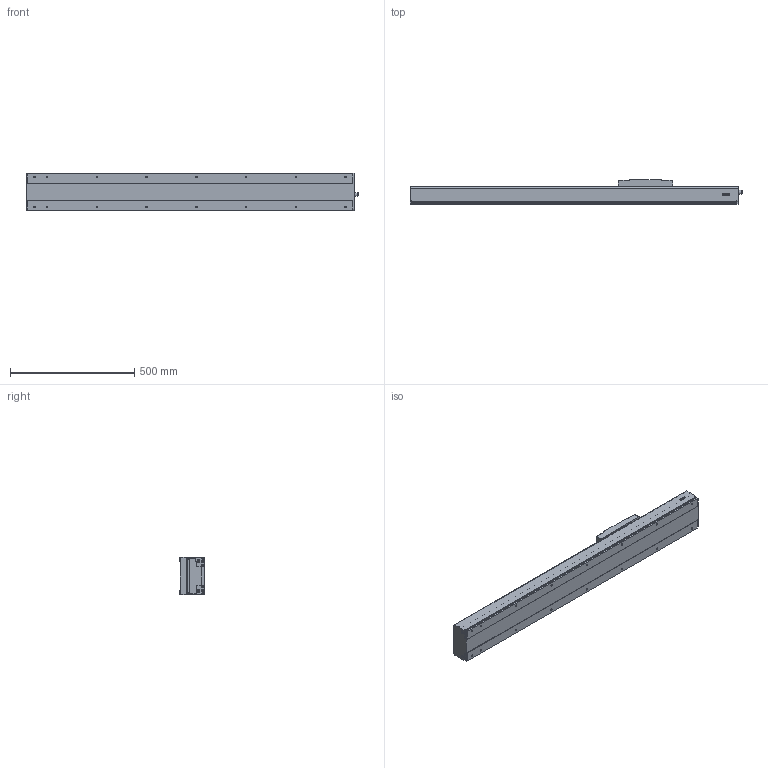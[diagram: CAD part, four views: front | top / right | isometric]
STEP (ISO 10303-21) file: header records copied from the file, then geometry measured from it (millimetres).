
FILE_DESCRIPTION(/* description */ (''),/* implementation_level */ '2;1');
FILE_NAME(/* name */ 'D:\混合母檔20191031\混和母檔\混和母檔\bin\Debug\Download\3D\KS150-20C-800AFI\KS150-20C-800AFI.stp',/* time_stamp */ '2019-11-04T16:02:55+08:00',/* author */ ('user'),/* organization */ (''),/* preprocessor_version */ 'ST-DEVELOPER v16.13',/* originating_system */ 'Autodesk Inventor 2018',/* authorisation */ '');
FILE_SCHEMA (('AUTOMOTIVE_DESIGN { 1 0 10303 214 3 1 1 }'));
Length unit declared in the file: millimetre
Products named in the file (3): KS150-20C-800AFI; KS150-FI; KS150-SL
Assembly tree (2 placements, depth 2):
  KS150-20C-800AFI
    KS150-FI
    KS150-SL
Bounding box: 1335.05 x 100 x 152.4 mm (x, y, z)
Volume: 5534347.8 mm3; surface area: 1321793.2 mm2
Topology: 4 solids, 8 shells, 1245 faces, 3285 edges, 2130 vertices
Faces by surface type: plane 615, cone 230, cylinder 192, bspline 136, torus 68, sphere 4
Full cylindrical faces by diameter (mm): 3.242 x12, 3.571 x8, 4.134 x4, 4.5 x8, 4.509 x6, 4.917 x4, 5 x18, 5.5 x12, 6 x2, 6.647 x20, 8 x4, 8.4 x8, 9.3 x12, 10.437 x1, 12 x1, 14 x1, 15 x1, 15.538 x1, 23 x1, 46 x1, 50 x1
Entity records: 41048 total; most frequent: CARTESIAN_POINT 12732, ORIENTED_EDGE 5848, DIRECTION 5441, EDGE_CURVE 2924, VERTEX_POINT 2020, AXIS2_PLACEMENT_3D 1888, LINE 1665, VECTOR 1665
